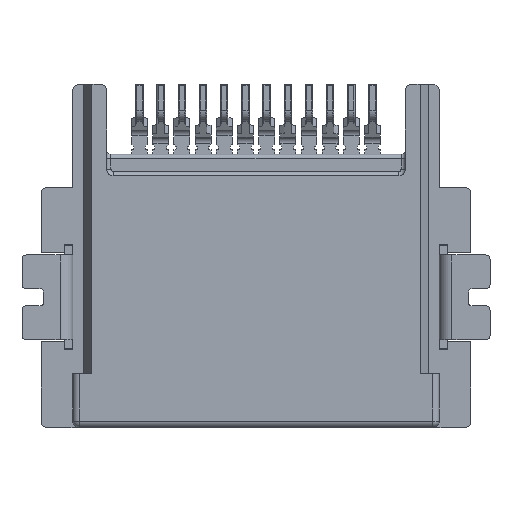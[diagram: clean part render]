
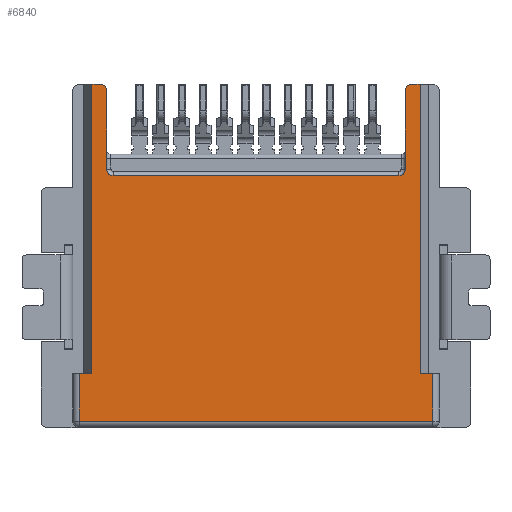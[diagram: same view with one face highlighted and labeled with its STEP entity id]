
A CAD part, front view. The second image highlights one B-rep face of the part: STEP entity #6840.
In plain terms, the highlighted planar face has unit normal (0, -1, 0).
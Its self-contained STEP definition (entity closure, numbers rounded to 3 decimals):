
#248 = CARTESIAN_POINT ( 'NONE',  ( 8.982, -6.26, -5.507 ) ) ;
#395 = EDGE_CURVE ( 'NONE', #8662, #4736, #6883, .T. ) ;
#410 = ORIENTED_EDGE ( 'NONE', *, *, #10130, .T. ) ;
#412 = FACE_OUTER_BOUND ( 'NONE', #10841, .T. ) ;
#588 = DIRECTION ( 'NONE',  ( 1., 0., 0. ) ) ;
#882 = DIRECTION ( 'NONE',  ( 0., 0., 1. ) ) ;
#898 = CARTESIAN_POINT ( 'NONE',  ( -8.918, -6.26, 8.143 ) ) ;
#1003 = CARTESIAN_POINT ( 'NONE',  ( -7.118, -6.26, -5.507 ) ) ;
#1038 = VERTEX_POINT ( 'NONE', #248 ) ;
#1435 = CARTESIAN_POINT ( 'NONE',  ( 9.582, -6.26, -8.057 ) ) ;
#1808 = DIRECTION ( 'NONE',  ( 1., 0., 0. ) ) ;
#1900 = EDGE_CURVE ( 'NONE', #1038, #10447, #10521, .T. ) ;
#1923 = VECTOR ( 'NONE', #19664, 1000. ) ;
#2054 = CARTESIAN_POINT ( 'NONE',  ( -6.518, -6.26, 8.143 ) ) ;
#2196 = EDGE_CURVE ( 'NONE', #12747, #18691, #9175, .T. ) ;
#2304 = VECTOR ( 'NONE', #11897, 1000. ) ;
#2688 = DIRECTION ( 'NONE',  ( 0., -1., 0. ) ) ;
#2708 = AXIS2_PLACEMENT_3D ( 'NONE', #16212, #2688, #14573 ) ;
#2832 = LINE ( 'NONE', #16881, #11364 ) ;
#2841 = DIRECTION ( 'NONE',  ( 0., 1., 0. ) ) ;
#3024 = LINE ( 'NONE', #9099, #19544 ) ;
#3041 = ORIENTED_EDGE ( 'NONE', *, *, #3538, .F. ) ;
#3153 = DIRECTION ( 'NONE',  ( 0., 0., 1. ) ) ;
#3392 = CARTESIAN_POINT ( 'NONE',  ( -6.118, -6.26, 8.143 ) ) ;
#3511 = VECTOR ( 'NONE', #3797, 1000. ) ;
#3538 = EDGE_CURVE ( 'NONE', #18731, #4736, #21659, .T. ) ;
#3574 = EDGE_CURVE ( 'NONE', #22059, #18731, #11500, .T. ) ;
#3797 = DIRECTION ( 'NONE',  ( 1., 0., 0. ) ) ;
#3835 = EDGE_CURVE ( 'NONE', #19556, #6538, #19232, .T. ) ;
#3950 = ORIENTED_EDGE ( 'NONE', *, *, #12931, .T. ) ;
#4085 = ORIENTED_EDGE ( 'NONE', *, *, #16420, .T. ) ;
#4736 = VERTEX_POINT ( 'NONE', #3392 ) ;
#4938 = CARTESIAN_POINT ( 'NONE',  ( -6.118, -6.26, 7.843 ) ) ;
#5065 = DIRECTION ( 'NONE',  ( 0., 0., -1. ) ) ;
#5318 = VECTOR ( 'NONE', #5065, 1000. ) ;
#5341 = DIRECTION ( 'NONE',  ( 0., -1., 0. ) ) ;
#5494 = CARTESIAN_POINT ( 'NONE',  ( -7.118, -6.26, -7.757 ) ) ;
#5696 = VECTOR ( 'NONE', #3153, 1000. ) ;
#5812 = CARTESIAN_POINT ( 'NONE',  ( -6.518, -6.26, 8.743 ) ) ;
#5992 = VECTOR ( 'NONE', #1808, 1000. ) ;
#5998 = ORIENTED_EDGE ( 'NONE', *, *, #8880, .T. ) ;
#6113 = CARTESIAN_POINT ( 'NONE',  ( -5.518, -6.26, 3.843 ) ) ;
#6114 = CARTESIAN_POINT ( 'NONE',  ( 9.882, -6.26, -7.757 ) ) ;
#6125 = EDGE_CURVE ( 'NONE', #8937, #8662, #7403, .T. ) ;
#6188 = CARTESIAN_POINT ( 'NONE',  ( 8.582, -6.26, 8.143 ) ) ;
#6332 = VECTOR ( 'NONE', #882, 1000. ) ;
#6382 = LINE ( 'NONE', #13518, #5318 ) ;
#6538 = VERTEX_POINT ( 'NONE', #15471 ) ;
#6840 = ADVANCED_FACE ( 'NONE', ( #412 ), #12849, .T. ) ;
#6843 = LINE ( 'NONE', #10198, #2304 ) ;
#6883 = CIRCLE ( 'NONE', #10617, 0.3 ) ;
#7235 = CIRCLE ( 'NONE', #15845, 0.3 ) ;
#7403 = LINE ( 'NONE', #15137, #6332 ) ;
#7600 = CIRCLE ( 'NONE', #14323, 0.3 ) ;
#7849 = VERTEX_POINT ( 'NONE', #1003 ) ;
#7869 = DIRECTION ( 'NONE',  ( 0., 1., 0. ) ) ;
#8567 = DIRECTION ( 'NONE',  ( 0., -1., 0. ) ) ;
#8662 = VERTEX_POINT ( 'NONE', #20335 ) ;
#8880 = EDGE_CURVE ( 'NONE', #15356, #10447, #15237, .T. ) ;
#8937 = VERTEX_POINT ( 'NONE', #11847 ) ;
#9099 = CARTESIAN_POINT ( 'NONE',  ( -7.418, -6.26, -5.507 ) ) ;
#9175 = LINE ( 'NONE', #14445, #14211 ) ;
#10130 = EDGE_CURVE ( 'NONE', #12747, #21932, #7235, .T. ) ;
#10157 = VECTOR ( 'NONE', #588, 1000. ) ;
#10198 = CARTESIAN_POINT ( 'NONE',  ( 8.982, -6.26, 8.743 ) ) ;
#10447 = VERTEX_POINT ( 'NONE', #12866 ) ;
#10521 = LINE ( 'NONE', #21350, #5992 ) ;
#10523 = CARTESIAN_POINT ( 'NONE',  ( -7.418, -6.26, 3.843 ) ) ;
#10617 = AXIS2_PLACEMENT_3D ( 'NONE', #4938, #8567, #13772 ) ;
#10841 = EDGE_LOOP ( 'NONE', ( #19342, #11119, #16930, #17610, #3041, #11721, #15472, #3950, #4085, #5998, #19101, #21078, #11689, #410, #18857, #13731 ) ) ;
#11119 = ORIENTED_EDGE ( 'NONE', *, *, #15199, .T. ) ;
#11322 = CARTESIAN_POINT ( 'NONE',  ( 8.282, -6.26, 7.843 ) ) ;
#11364 = VECTOR ( 'NONE', #13454, 1000. ) ;
#11500 = LINE ( 'NONE', #5812, #15995 ) ;
#11689 = ORIENTED_EDGE ( 'NONE', *, *, #2196, .F. ) ;
#11721 = ORIENTED_EDGE ( 'NONE', *, *, #3574, .F. ) ;
#11847 = CARTESIAN_POINT ( 'NONE',  ( -5.818, -6.26, 4.143 ) ) ;
#11894 = VERTEX_POINT ( 'NONE', #5494 ) ;
#11897 = DIRECTION ( 'NONE',  ( 0., 0., -1. ) ) ;
#12747 = VERTEX_POINT ( 'NONE', #6188 ) ;
#12849 = PLANE ( 'NONE',  #2708 ) ;
#12866 = CARTESIAN_POINT ( 'NONE',  ( 9.582, -6.26, -5.507 ) ) ;
#12931 = EDGE_CURVE ( 'NONE', #7849, #11894, #6382, .T. ) ;
#13018 = CARTESIAN_POINT ( 'NONE',  ( 7.982, -6.26, 4.143 ) ) ;
#13454 = DIRECTION ( 'NONE',  ( 0., 0., 1. ) ) ;
#13518 = CARTESIAN_POINT ( 'NONE',  ( -7.118, -6.26, -8.057 ) ) ;
#13731 = ORIENTED_EDGE ( 'NONE', *, *, #13961, .T. ) ;
#13772 = DIRECTION ( 'NONE',  ( 0., 0., -1. ) ) ;
#13805 = CARTESIAN_POINT ( 'NONE',  ( 8.982, -6.26, 8.143 ) ) ;
#13961 = EDGE_CURVE ( 'NONE', #20721, #6538, #19642, .T. ) ;
#14211 = VECTOR ( 'NONE', #19540, 1000. ) ;
#14323 = AXIS2_PLACEMENT_3D ( 'NONE', #18072, #7869, #19783 ) ;
#14445 = CARTESIAN_POINT ( 'NONE',  ( -8.918, -6.26, 8.143 ) ) ;
#14573 = DIRECTION ( 'NONE',  ( 0., 0., -1. ) ) ;
#14716 = DIRECTION ( 'NONE',  ( 0., 0., -1. ) ) ;
#15137 = CARTESIAN_POINT ( 'NONE',  ( -5.818, -6.26, 1.943 ) ) ;
#15199 = EDGE_CURVE ( 'NONE', #19556, #8937, #7600, .T. ) ;
#15237 = LINE ( 'NONE', #1435, #5696 ) ;
#15356 = VERTEX_POINT ( 'NONE', #21815 ) ;
#15471 = CARTESIAN_POINT ( 'NONE',  ( 7.982, -6.26, 3.843 ) ) ;
#15472 = ORIENTED_EDGE ( 'NONE', *, *, #21733, .F. ) ;
#15488 = CARTESIAN_POINT ( 'NONE',  ( 8.582, -6.26, 7.843 ) ) ;
#15845 = AXIS2_PLACEMENT_3D ( 'NONE', #15488, #5341, #17215 ) ;
#15995 = VECTOR ( 'NONE', #20321, 1000. ) ;
#16212 = CARTESIAN_POINT ( 'NONE',  ( -7.418, -6.26, -8.057 ) ) ;
#16420 = EDGE_CURVE ( 'NONE', #11894, #15356, #16555, .T. ) ;
#16555 = LINE ( 'NONE', #6114, #1923 ) ;
#16881 = CARTESIAN_POINT ( 'NONE',  ( 8.282, -6.26, 1.943 ) ) ;
#16930 = ORIENTED_EDGE ( 'NONE', *, *, #6125, .T. ) ;
#17215 = DIRECTION ( 'NONE',  ( 0., 0., -1. ) ) ;
#17610 = ORIENTED_EDGE ( 'NONE', *, *, #395, .T. ) ;
#18072 = CARTESIAN_POINT ( 'NONE',  ( -5.518, -6.26, 4.143 ) ) ;
#18220 = CARTESIAN_POINT ( 'NONE',  ( 8.282, -6.26, 4.143 ) ) ;
#18395 = CARTESIAN_POINT ( 'NONE',  ( -6.518, -6.26, -5.507 ) ) ;
#18691 = VERTEX_POINT ( 'NONE', #13805 ) ;
#18731 = VERTEX_POINT ( 'NONE', #2054 ) ;
#18857 = ORIENTED_EDGE ( 'NONE', *, *, #20251, .F. ) ;
#19101 = ORIENTED_EDGE ( 'NONE', *, *, #1900, .F. ) ;
#19232 = LINE ( 'NONE', #10523, #10157 ) ;
#19342 = ORIENTED_EDGE ( 'NONE', *, *, #3835, .F. ) ;
#19540 = DIRECTION ( 'NONE',  ( 1., 0., 0. ) ) ;
#19544 = VECTOR ( 'NONE', #21022, 1000. ) ;
#19556 = VERTEX_POINT ( 'NONE', #6113 ) ;
#19642 = CIRCLE ( 'NONE', #21906, 0.3 ) ;
#19664 = DIRECTION ( 'NONE',  ( 1., 0., 0. ) ) ;
#19783 = DIRECTION ( 'NONE',  ( 0., 0., -1. ) ) ;
#20251 = EDGE_CURVE ( 'NONE', #20721, #21932, #2832, .T. ) ;
#20264 = EDGE_CURVE ( 'NONE', #18691, #1038, #6843, .T. ) ;
#20321 = DIRECTION ( 'NONE',  ( 0., 0., 1. ) ) ;
#20335 = CARTESIAN_POINT ( 'NONE',  ( -5.818, -6.26, 7.843 ) ) ;
#20721 = VERTEX_POINT ( 'NONE', #18220 ) ;
#21022 = DIRECTION ( 'NONE',  ( 1., 0., 0. ) ) ;
#21078 = ORIENTED_EDGE ( 'NONE', *, *, #20264, .F. ) ;
#21350 = CARTESIAN_POINT ( 'NONE',  ( 9.882, -6.26, -5.507 ) ) ;
#21659 = LINE ( 'NONE', #898, #3511 ) ;
#21733 = EDGE_CURVE ( 'NONE', #7849, #22059, #3024, .T. ) ;
#21815 = CARTESIAN_POINT ( 'NONE',  ( 9.582, -6.26, -7.757 ) ) ;
#21906 = AXIS2_PLACEMENT_3D ( 'NONE', #13018, #2841, #14716 ) ;
#21932 = VERTEX_POINT ( 'NONE', #11322 ) ;
#22059 = VERTEX_POINT ( 'NONE', #18395 ) ;
